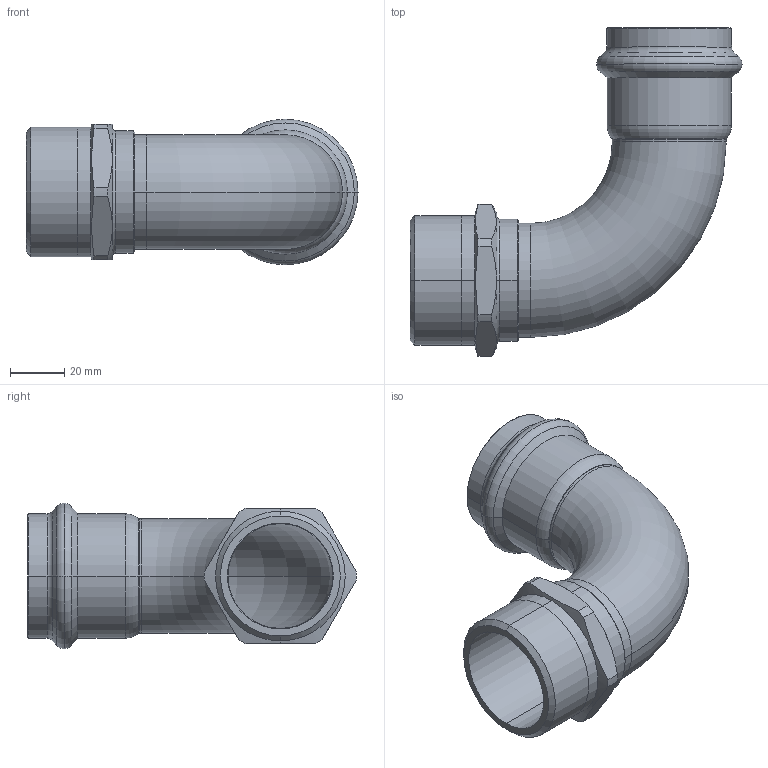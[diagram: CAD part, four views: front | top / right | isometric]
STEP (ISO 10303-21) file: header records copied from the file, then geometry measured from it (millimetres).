
FILE_DESCRIPTION(('CoCreate Modeling STEP Export'),'2;1');
FILE_NAME('8092GVW42112.stp','2013-03-05T11:31:52',(''),(''),'CoCreate Modeling STEP processor for AP214 (Solid Model)','CoCreate Modeling 17.00A 17-Jun-2010 (C) Parametric Technology GmbH','');
FILE_SCHEMA(('AUTOMOTIVE_DESIGN { 1 0 10303 214 1 1 1 1 }'));
Length unit declared in the file: millimetre
Products named in the file (2): 8092GVW42112
Assembly tree (1 placements, depth 2):
  8092GVW42112
    8092GVW42112
Bounding box: 122.31 x 121.09 x 53.61 mm (x, y, z)
Volume: 57241.5 mm3; surface area: 47031.6 mm2
Topology: 1 solids, 1 shells, 93 faces, 203 edges, 117 vertices
Faces by surface type: cylinder 34, cone 26, torus 20, plane 13
Entity records: 2941 total; most frequent: CARTESIAN_POINT 1165, ORIENTED_EDGE 406, DIRECTION 300, EDGE_CURVE 203, AXIS2_PLACEMENT_3D 117, VERTEX_POINT 117, EDGE_LOOP 100, FACE_OUTER_BOUND 93
